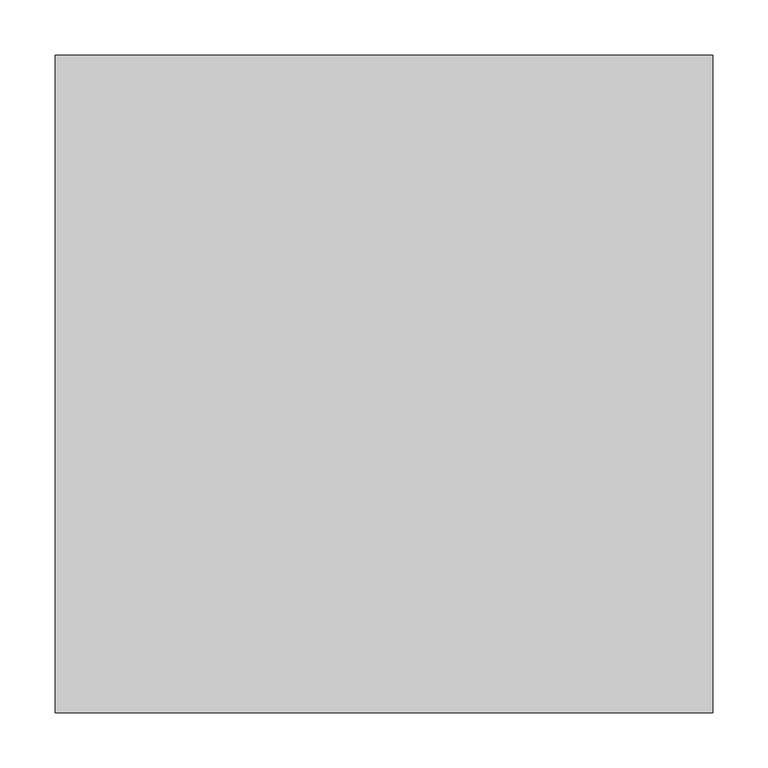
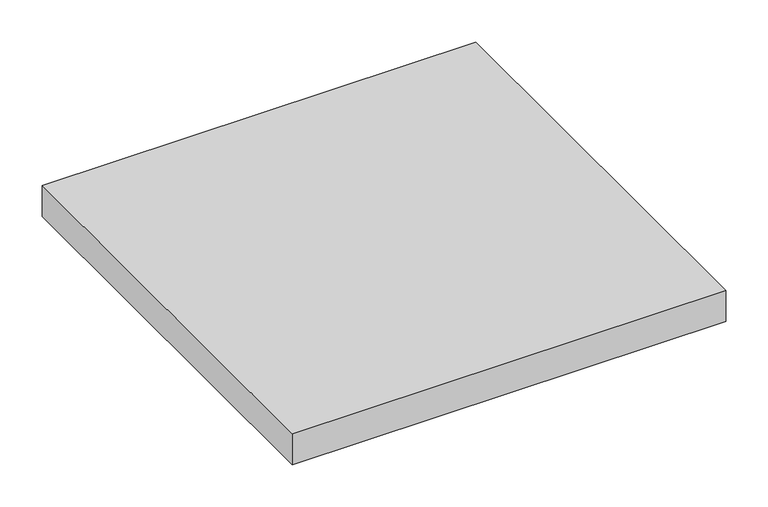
"""IFC4 building model written with IfcOpenShell, lengths in millimetres: light fixture geometry, GENILED_Светильник светодиодный_Офис Advanced : Офис Advanced 595x595x45 100Вт IP54 Опал."""

from ifc_helpers import new_model, si_unit, origin, place, context, project, spatial, faceted_brep, source, transform, mapped, element, save


def light_fixture_10212c1c(model_context):
    return source(origin(), model_context, "Body", "Brep", [
        faceted_brep([(297.5, 297.5, 45.0), (-297.5, 297.5, 45.0), (-297.5, -297.5, 45.0), (297.5, -297.5, 45.0), (297.5, 297.5, 0.0), (297.5, -297.5, 0.0), (-297.5, -297.5, 0.0), (-297.5, 297.5, 0.0), (287.5, 287.5, 0.0), (-287.5, 287.5, 0.0), (-287.5, -287.5, 0.0), (287.5, -287.5, 0.0), (287.5, -287.5, 5.0), (287.5, 287.5, 5.0), (-287.5, -287.5, 5.0), (-287.5, 287.5, 5.0)], [[[0, 1, 2, 3]], [[4, 5, 6, 7], [8, 9, 10, 11]], [[1, 0, 4, 7]], [[2, 1, 7, 6]], [[3, 2, 6, 5]], [[0, 3, 5, 4]], [[8, 11, 12, 13]], [[11, 10, 14, 12]], [[10, 9, 15, 14]], [[9, 8, 13, 15]], [[13, 12, 14, 15]]]),
    ])


if __name__ == "__main__":
    model = new_model("IFC4")
    model_context = context("Model", 3, world=origin())
    ifc_project = project(units=[si_unit("LENGTHUNIT", "METRE", prefix="MILLI")], contexts=[model_context])
    site = spatial("IfcSite", under=ifc_project)
    building = spatial("IfcBuilding", under=site)
    placement = place(None, origin())
    light_fixture_shape = light_fixture_10212c1c(model_context)
    element("IfcLightFixture", 1, ObjectType="GENILED_Светильник светодиодный_Офис Advanced : Офис Advanced 595x595x45 100Вт IP54 Опал", at=placement, inside=building, context=model_context, shape_type="MappedRepresentation", body=[
        mapped(light_fixture_shape, transform((0.0, 0.0, 0.0), x_axis=(1.0, 0.0, 0.0), y_axis=(0.0, 1.0, 0.0), z_axis=(0.0, 0.0, 1.0))),
    ])
    save(model, "model.ifc")
